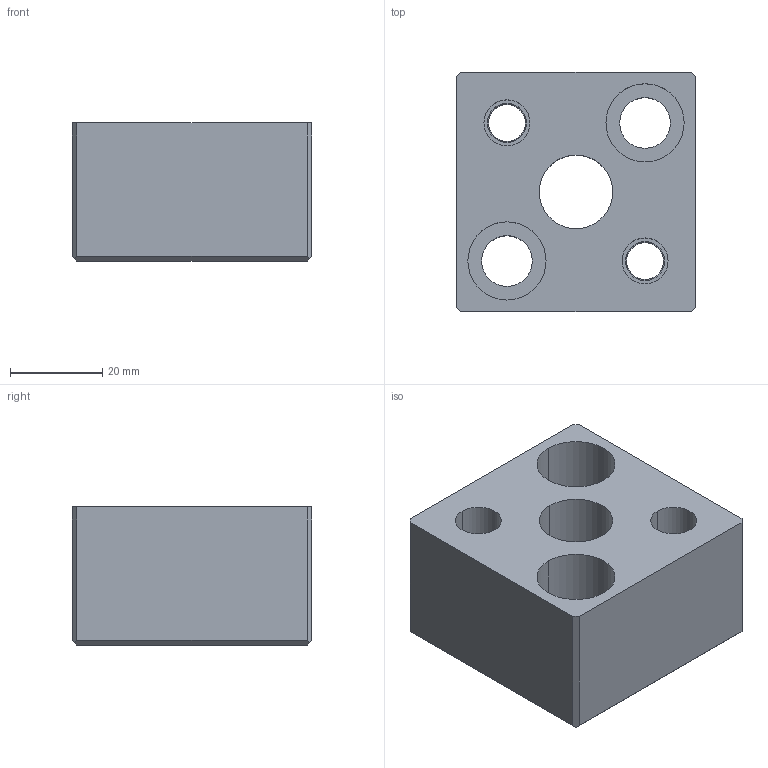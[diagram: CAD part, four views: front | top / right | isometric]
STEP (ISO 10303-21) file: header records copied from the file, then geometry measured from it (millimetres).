
FILE_DESCRIPTION(/* description */ (''),/* implementation_level */ '2;1');
FILE_NAME(/* name */ '3d_sr-an16_05471_r00.stp',/* time_stamp */ '2011-01-10T14:10:00+09:00',/* author */ ('MISUMI'),/* organization */ (''),/* preprocessor_version */ 'ST-DEVELOPER v11',/* originating_system */ 'UGS - NX 5.0',/* authorisation */ '');
FILE_SCHEMA (('CONFIG_CONTROL_DESIGN'));
Length unit declared in the file: millimetre
Products named in the file (1): 3d_sr-an16_05471_r00
Bounding box: 52 x 52 x 30 mm (x, y, z)
Volume: 61635.1 mm3; surface area: 16256.4 mm2
Topology: 1 solids, 1 shells, 47 faces, 112 edges, 74 vertices
Faces by surface type: cylinder 24, plane 21, cone 2
Entity records: 1486 total; most frequent: DIRECTION 258, CARTESIAN_POINT 234, ORIENTED_EDGE 224, EDGE_CURVE 112, AXIS2_PLACEMENT_3D 98, VERTEX_POINT 74, EDGE_LOOP 64, LINE 62
